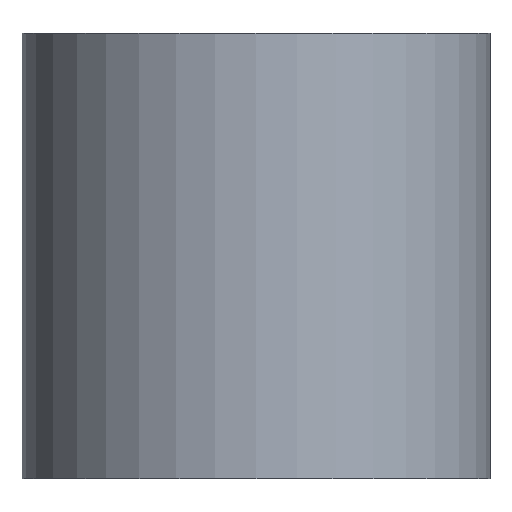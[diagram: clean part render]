
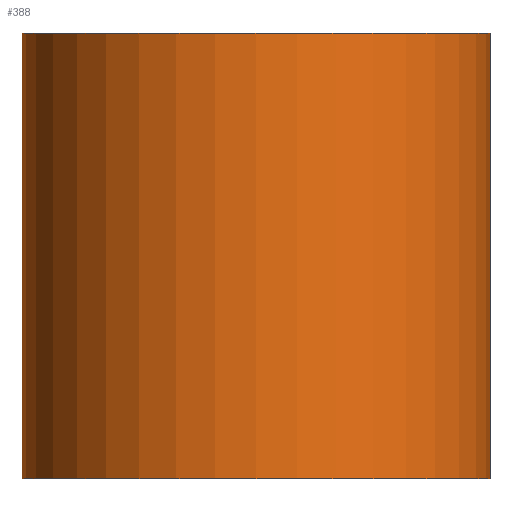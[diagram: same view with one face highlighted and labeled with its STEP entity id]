
A CAD part, front view. The second image highlights one B-rep face of the part: STEP entity #388.
In plain terms, the highlighted cylindrical face has radius 10.5 mm (diameter 21 mm), a full revolution.
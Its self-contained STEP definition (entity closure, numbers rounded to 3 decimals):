
#275=CARTESIAN_POINT('',(0.0,0.0,0.0));
#276=DIRECTION('',(0.0,0.0,1.0));
#277=DIRECTION('',(-1.0,0.0,0.0));
#278=AXIS2_PLACEMENT_3D('',#275,#276,#277);
#279=CYLINDRICAL_SURFACE('',#278,10.5);
#280=CARTESIAN_POINT('',(10.5,0.,10.0));
#281=VERTEX_POINT('',#280);
#282=CARTESIAN_POINT('',(0.0,0.0,10.0));
#283=DIRECTION('',(0.0,0.0,-1.0));
#284=DIRECTION('',(-1.0,0.0,0.0));
#285=AXIS2_PLACEMENT_3D('',#282,#283,#284);
#286=CIRCLE('',#285,10.5);
#287=EDGE_CURVE('',#281,#281,#286,.T.);
#288=ORIENTED_EDGE('',*,*,#287,.T.);
#289=EDGE_LOOP('',(#288));
#290=FACE_OUTER_BOUND('',#289,.T.);
#291=CARTESIAN_POINT('',(10.5,0.,-10.0));
#292=VERTEX_POINT('',#291);
#293=CARTESIAN_POINT('',(0.0,0.0,-10.0));
#294=DIRECTION('',(0.0,0.0,1.0));
#295=DIRECTION('',(-1.0,0.0,0.0));
#296=AXIS2_PLACEMENT_3D('',#293,#294,#295);
#297=CIRCLE('',#296,10.5);
#298=EDGE_CURVE('',#292,#292,#297,.T.);
#299=ORIENTED_EDGE('',*,*,#298,.T.);
#300=EDGE_LOOP('',(#299));
#301=FACE_BOUND('',#300,.T.);
#302=CARTESIAN_POINT('',(-5.,9.233,0.0));
#303=VERTEX_POINT('',#302);
#304=CARTESIAN_POINT('',(-5.,9.233,0.));
#305=CARTESIAN_POINT('',(-5.,9.233,0.527));
#306=CARTESIAN_POINT('',(-4.913,9.282,1.078));
#307=CARTESIAN_POINT('',(-4.738,9.37,1.598));
#308=CARTESIAN_POINT('',(-4.607,9.437,1.987));
#309=CARTESIAN_POINT('',(-4.427,9.524,2.359));
#310=CARTESIAN_POINT('',(-4.209,9.619,2.699));
#311=CARTESIAN_POINT('',(-4.028,9.699,2.981));
#312=CARTESIAN_POINT('',(-3.821,9.783,3.241));
#313=CARTESIAN_POINT('',(-3.599,9.864,3.471));
#314=CARTESIAN_POINT('',(-3.45,9.918,3.625));
#315=CARTESIAN_POINT('',(-3.292,9.972,3.77));
#316=CARTESIAN_POINT('',(-3.119,10.026,3.908));
#317=CARTESIAN_POINT('',(-2.689,10.16,4.251));
#318=CARTESIAN_POINT('',(-2.183,10.285,4.534));
#319=CARTESIAN_POINT('',(-1.643,10.371,4.722));
#320=CARTESIAN_POINT('',(-1.171,10.446,4.887));
#321=CARTESIAN_POINT('',(-0.672,10.49,4.978));
#322=CARTESIAN_POINT('',(-0.188,10.498,4.996));
#323=CARTESIAN_POINT('',(0.054,10.503,5.006));
#324=CARTESIAN_POINT('',(0.295,10.499,4.997));
#325=CARTESIAN_POINT('',(0.54,10.486,4.971));
#326=CARTESIAN_POINT('',(1.108,10.457,4.909));
#327=CARTESIAN_POINT('',(1.681,10.378,4.744));
#328=CARTESIAN_POINT('',(2.2,10.267,4.49));
#329=CARTESIAN_POINT('',(2.53,10.196,4.328));
#330=CARTESIAN_POINT('',(2.839,10.113,4.131));
#331=CARTESIAN_POINT('',(3.116,10.027,3.91));
#332=CARTESIAN_POINT('',(3.276,9.977,3.783));
#333=CARTESIAN_POINT('',(3.424,9.927,3.649));
#334=CARTESIAN_POINT('',(3.563,9.877,3.508));
#335=CARTESIAN_POINT('',(3.963,9.733,3.101));
#336=CARTESIAN_POINT('',(4.316,9.576,2.598));
#337=CARTESIAN_POINT('',(4.565,9.456,2.041));
#338=CARTESIAN_POINT('',(4.744,9.369,1.639));
#339=CARTESIAN_POINT('',(4.871,9.302,1.21));
#340=CARTESIAN_POINT('',(4.939,9.266,0.777));
#341=CARTESIAN_POINT('',(4.979,9.244,0.523));
#342=CARTESIAN_POINT('',(4.999,9.234,0.268));
#343=CARTESIAN_POINT('',(5.,9.233,0.018));
#344=CARTESIAN_POINT('',(5.001,9.233,-0.229));
#345=CARTESIAN_POINT('',(4.983,9.242,-0.481));
#346=CARTESIAN_POINT('',(4.946,9.262,-0.732));
#347=CARTESIAN_POINT('',(4.863,9.307,-1.297));
#348=CARTESIAN_POINT('',(4.677,9.405,-1.858));
#349=CARTESIAN_POINT('',(4.407,9.531,-2.363));
#350=CARTESIAN_POINT('',(4.218,9.618,-2.714));
#351=CARTESIAN_POINT('',(3.988,9.717,-3.039));
#352=CARTESIAN_POINT('',(3.734,9.813,-3.325));
#353=CARTESIAN_POINT('',(3.567,9.877,-3.513));
#354=CARTESIAN_POINT('',(3.391,9.94,-3.684));
#355=CARTESIAN_POINT('',(3.195,10.002,-3.846));
#356=CARTESIAN_POINT('',(2.766,10.139,-4.202));
#357=CARTESIAN_POINT('',(2.256,10.27,-4.5));
#358=CARTESIAN_POINT('',(1.708,10.36,-4.699));
#359=CARTESIAN_POINT('',(1.205,10.443,-4.882));
#360=CARTESIAN_POINT('',(0.669,10.491,-4.982));
#361=CARTESIAN_POINT('',(0.152,10.499,-4.998));
#362=CARTESIAN_POINT('',(-0.067,10.502,-5.004));
#363=CARTESIAN_POINT('',(-0.284,10.498,-4.997));
#364=CARTESIAN_POINT('',(-0.505,10.488,-4.974));
#365=CARTESIAN_POINT('',(-1.059,10.461,-4.918));
#366=CARTESIAN_POINT('',(-1.62,10.387,-4.764));
#367=CARTESIAN_POINT('',(-2.131,10.281,-4.523));
#368=CARTESIAN_POINT('',(-2.477,10.21,-4.36));
#369=CARTESIAN_POINT('',(-2.802,10.124,-4.158));
#370=CARTESIAN_POINT('',(-3.093,10.034,-3.928));
#371=CARTESIAN_POINT('',(-3.258,9.983,-3.799));
#372=CARTESIAN_POINT('',(-3.412,9.931,-3.661));
#373=CARTESIAN_POINT('',(-3.554,9.88,-3.517));
#374=CARTESIAN_POINT('',(-3.953,9.737,-3.114));
#375=CARTESIAN_POINT('',(-4.305,9.581,-2.614));
#376=CARTESIAN_POINT('',(-4.555,9.461,-2.062));
#377=CARTESIAN_POINT('',(-4.782,9.351,-1.56));
#378=CARTESIAN_POINT('',(-4.926,9.273,-1.013));
#379=CARTESIAN_POINT('',(-4.978,9.245,-0.473));
#380=CARTESIAN_POINT('',(-4.993,9.237,-0.314));
#381=CARTESIAN_POINT('',(-5.,9.233,-0.156));
#382=CARTESIAN_POINT('',(-5.,9.233,0.));
#383=B_SPLINE_CURVE_WITH_KNOTS('',3,(#304,#305,#306,#307,#308,#309,#310,#311,#312,#313,#314,#315,#316,#317,#318,#319,#320,#321,#322,#323,#324,#325,#326,#327,#328,#329,#330,#331,#332,#333,#334,#335,#336,#337,#338,#339,#340,#341,#342,#343,#344,#345,#346,#347,#348,#349,#350,#351,#352,#353,#354,#355,#356,#357,#358,#359,#360,#361,#362,#363,#364,#365,#366,#367,#368,#369,#370,#371,#372,#373,#374,#375,#376,#377,#378,#379,#380,#381,#382),.UNSPECIFIED.,.T.,.U.,(4,3,3,3,3,3,3,3,3,3,3,3,3,3,3,3,3,3,3,3,3,3,3,3,3,3,4),(0.0,0.158,0.276,0.375,0.441,0.605,0.748,0.821,0.987,1.093,1.154,1.33,1.458,1.533,1.607,1.773,1.889,1.965,2.132,2.286,2.351,2.514,2.625,2.687,2.863,3.022,3.069),.UNSPECIFIED.);
#384=EDGE_CURVE('',#303,#303,#383,.T.);
#385=ORIENTED_EDGE('',*,*,#384,.F.);
#386=EDGE_LOOP('',(#385));
#387=FACE_BOUND('',#386,.T.);
#388=ADVANCED_FACE('',(#290,#301,#387),#279,.T.);
